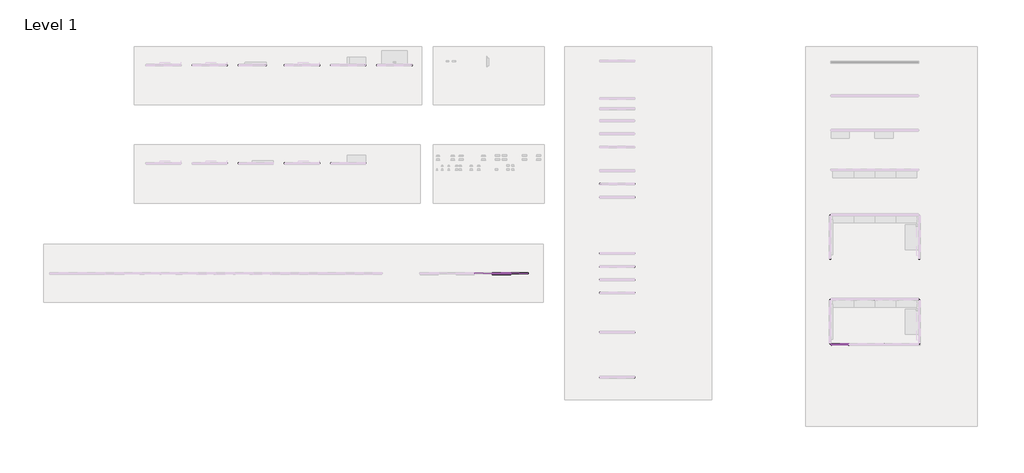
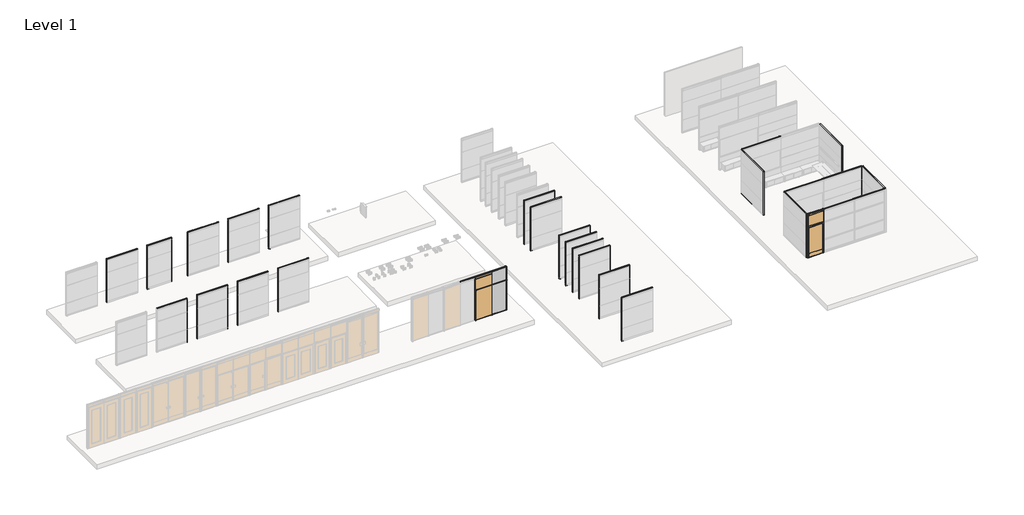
# One storey, part 3 of 13: 110 members, 13 doors, 1 plate.
"""IFC4 building model written with IfcOpenShell, lengths in millimetres."""

from ifc_helpers import new_model, si_unit, origin, place, context, project, spatial, transform, mapped, element, save
from components import fascia_door_teknion_ceiling_fpc_80850e86, fascia_door_teknion_ceiling_fpc_62af43c9, fascia_door_teknion_ceiling_fpc_4a164c3f, fascia_door_teknion_ceiling_fpc_6b3cde2a, fascia_door_teknion_glass_cfa58dbe, fascia_door_teknion_solid_fps_55af6ed7, frame_door_teknion_horizontal_rail_915d0f1b, frame_door_teknion_segmented_height_barn_single_50550370, frame_door_teknion_single_glass_bf3171e9, panel_door_teknion_glass_glas_door_panel_a473ddc0, panel_door_teknion_glass_barn_glass_door_panel_91c8f159, rectangular_mullion_eacba65d, rectangular_mullion_8e80d384, rectangular_mullion_beb627a1, rectangular_mullion_3d77bba8, rectangular_mullion_3afcdd40, rectangular_mullion_6b0b23d2, rectangular_mullion_1fbba104, rectangular_mullion_499ce15c, rectangular_mullion_f0f61f1f, rectangular_mullion_816eeb7a, rectangular_mullion_0f186f63, rectangular_mullion_frame_teknion_landscape_vertical_post_05f5e206, rectangular_mullion_frame_teknion_landscape_vertical_post_5ea4eea9, rectangular_mullion_frame_teknion_landscape_vertical_post_1fa3a907, system_panel_glazed_c02fb8ab

model = new_model("IFC4")

# Units and contexts
model_context = context("Model", 3, world=origin())
ifc_project = project(units=[si_unit("LENGTHUNIT", "METRE", prefix="MILLI")], contexts=[model_context])

# Site, building, storey
site = spatial("IfcSite", under=ifc_project)
building = spatial("IfcBuilding", under=site)
storey = spatial("IfcBuildingStorey", under=building, Name="Level 1", Elevation=0.0)

# Doors
placement = place(None, origin())
fascia_door_teknion_ceiling_fpc_shape = fascia_door_teknion_ceiling_fpc_80850e86(model_context)
element("IfcDoor", 1, ObjectType="Fascia-Door-Teknion-Ceiling : FPC", at=placement, inside=storey, context=model_context, shape_type="MappedRepresentation", body=[
    mapped(fascia_door_teknion_ceiling_fpc_shape, transform((781.0732348, 10022.5313649, 2900.045), x_axis=(1.0, 0.0, 0.0), y_axis=(0.0, 1.0, 0.0), z_axis=(0.0, 0.0, 1.0))),
])
fascia_door_teknion_ceiling_fpc_2_shape = fascia_door_teknion_ceiling_fpc_62af43c9(model_context)
element("IfcDoor", 2, ObjectType="Fascia-Door-Teknion-Ceiling : FPC", at=placement, inside=storey, context=model_context, shape_type="MappedRepresentation", body=[
    mapped(fascia_door_teknion_ceiling_fpc_2_shape, transform((781.0732348, 10122.6073649, 2900.045), x_axis=(1.0, 0.0, 0.0), y_axis=(0.0, 1.0, 0.0), z_axis=(0.0, 0.0, 1.0))),
])
fascia_door_teknion_ceiling_fpc_3_shape = fascia_door_teknion_ceiling_fpc_4a164c3f(model_context)
element("IfcDoor", 3, ObjectType="Fascia-Door-Teknion-Ceiling : FPC", at=placement, inside=storey, context=model_context, shape_type="MappedRepresentation", body=[
    mapped(fascia_door_teknion_ceiling_fpc_3_shape, transform((20337.8289087, 6027.4794732, 2950.845), x_axis=(-1.0, 0.0, 0.0), y_axis=(0.0, -1.0, 0.0), z_axis=(0.0, 0.0, 1.0))),
])
fascia_door_teknion_ceiling_fpc_4_shape = fascia_door_teknion_ceiling_fpc_6b3cde2a(model_context)
element("IfcDoor", 4, ObjectType="Fascia-Door-Teknion-Ceiling : FPC", at=placement, inside=storey, context=model_context, shape_type="MappedRepresentation", body=[
    mapped(fascia_door_teknion_ceiling_fpc_4_shape, transform((20337.8289087, 5925.8794732, 2950.845), x_axis=(-1.0, 0.0, 0.0), y_axis=(0.0, -1.0, 0.0), z_axis=(0.0, 0.0, 1.0))),
])
fascia_door_teknion_glass_shape = fascia_door_teknion_glass_cfa58dbe(model_context)
element("IfcDoor", 5, ObjectType="Fascia-Door-Teknion-Glass : FPGC", at=placement, inside=storey, context=model_context, shape_type="MappedRepresentation", body=[
    mapped(fascia_door_teknion_glass_shape, transform((20332.4187087, 5976.6794732, 2139.95), x_axis=(-1.0, 0.0, 0.0), y_axis=(0.0, -1.0, 0.0), z_axis=(0.0, 0.0, 1.0))),
])
fascia_door_teknion_solid_fps_shape = fascia_door_teknion_solid_fps_55af6ed7(model_context)
element("IfcDoor", 6, ObjectType="Fascia-Door-Teknion-Solid : FPS", at=placement, inside=storey, context=model_context, shape_type="MappedRepresentation", body=[
    mapped(fascia_door_teknion_solid_fps_shape, transform((781.0732348, 10022.5313649, 2139.95), x_axis=(-1.0000000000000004, 0.0, 0.0), y_axis=(0.0, -1.0000000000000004, 0.0), z_axis=(0.0, 0.0, 1.0))),
])
element("IfcDoor", 7, ObjectType="Fascia-Door-Teknion-Solid : FPS", at=placement, inside=storey, context=model_context, shape_type="MappedRepresentation", body=[
    mapped(fascia_door_teknion_solid_fps_shape, transform((781.0732348, 10122.6073649, 2139.95), x_axis=(1.0, 0.0, 0.0), y_axis=(0.0, 1.0, 0.0), z_axis=(0.0, 0.0, 1.0))),
])
frame_door_teknion_horizontal_rail_shape = frame_door_teknion_horizontal_rail_915d0f1b(model_context)
element("IfcDoor", 8, ObjectType="Frame-Door-Teknion-Horizontal_Rail : FPKK", at=placement, inside=storey, context=model_context, shape_type="MappedRepresentation", body=[
    mapped(frame_door_teknion_horizontal_rail_shape, transform((20337.8289087, 5976.6794732, 2139.95), x_axis=(-1.0, 0.0, 0.0), y_axis=(0.0, -1.0, 0.0), z_axis=(0.0, 0.0, 1.0))),
])
element("IfcDoor", 9, ObjectType="Frame-Door-Teknion-Horizontal_Rail : FPKK", at=placement, inside=storey, context=model_context, shape_type="MappedRepresentation", body=[
    mapped(frame_door_teknion_horizontal_rail_shape, transform((20337.8289087, 5976.6794732, 2947.67), x_axis=(-1.0, 0.0, 0.0), y_axis=(0.0, -1.0, 0.0), z_axis=(0.0, 0.0, 1.0))),
])
frame_door_teknion_segmented_height_barn_single_shape = frame_door_teknion_segmented_height_barn_single_50550370(model_context)
element("IfcDoor", 10, ObjectType="Frame-Door-Teknion-Segmented_Height_Barn-Single : FPBGFJ", at=placement, inside=storey, context=model_context, shape_type="MappedRepresentation", body=[
    mapped(frame_door_teknion_segmented_height_barn_single_shape, transform((781.0732348, 10072.5693649, 3.175), x_axis=(1.0, 0.0, 0.0), y_axis=(0.0, 1.0, 0.0), z_axis=(0.0, 0.0, 1.0))),
])
frame_door_teknion_single_glass_shape = frame_door_teknion_single_glass_bf3171e9(model_context)
element("IfcDoor", 11, ObjectType="Frame-Door-Teknion-Single-Glass : FPFJS", at=placement, inside=storey, context=model_context, shape_type="MappedRepresentation", body=[
    mapped(frame_door_teknion_single_glass_shape, transform((20337.8289087, 5976.6794732, 3.175), x_axis=(-1.0, 0.0, 0.0), y_axis=(0.0, -1.0, 0.0), z_axis=(0.0, 0.0, 1.0))),
])
panel_door_teknion_glass_glas_door_panel_shape = panel_door_teknion_glass_glas_door_panel_a473ddc0(model_context)
element("IfcDoor", 12, ObjectType="Panel-Door-Teknion-Glass : Glas Door Panel", at=placement, inside=storey, context=model_context, shape_type="MappedRepresentation", body=[
    mapped(panel_door_teknion_glass_glas_door_panel_shape, transform((20337.3336087, 5969.5489322, 3.175), x_axis=(1.0, 0.0, 0.0), y_axis=(0.0, 1.0, 0.0), z_axis=(0.0, 0.0, 1.0))),
])
panel_door_teknion_glass_barn_glass_door_panel_shape = panel_door_teknion_glass_barn_glass_door_panel_91c8f159(model_context)
element("IfcDoor", 13, ObjectType="Panel-Door-Teknion-Glass-Barn : Glass Door Panel", at=placement, inside=storey, context=model_context, shape_type="MappedRepresentation", body=[
    mapped(panel_door_teknion_glass_barn_glass_door_panel_shape, transform((784.0284831, 10007.6610549, 3.175), x_axis=(-1.0, 0.0, 0.0), y_axis=(0.0, -1.0, 0.0), z_axis=(0.0, 0.0, 1.0))),
])

# Members
rectangular_mullion_shape = rectangular_mullion_eacba65d(model_context)
element("IfcMember", 14, ObjectType="Rectangular Mullion : Frame-Teknion-Altos-Ceiling_Channel", at=placement, inside=storey, context=model_context, shape_type="MappedRepresentation", body=[
    mapped(rectangular_mullion_shape, transform((19825.4136744, 5976.6783277, 3048.0), x_axis=(0.0, 0.0, 1.0), y_axis=(0.0, 1.0, 0.0), z_axis=(-1.0, 0.0, 0.0))),
])
rectangular_mullion_2_shape = rectangular_mullion_8e80d384(model_context)
element("IfcMember", 15, ObjectType="Rectangular Mullion : Frame-Teknion-Altos-Base_Channel", at=placement, inside=storey, context=model_context, shape_type="MappedRepresentation", body=[
    mapped(rectangular_mullion_2_shape, transform((20850.2441431, 5976.6783277, 0.0), x_axis=(0.0, 0.0, -1.0), y_axis=(0.0, 1.0, 0.0), z_axis=(1.0, 0.0, 0.0))),
])
rectangular_mullion_3_shape = rectangular_mullion_beb627a1(model_context)
element("IfcMember", 16, ObjectType="Rectangular Mullion : Frame-Teknion-Altos-Base_Channel", at=placement, inside=storey, context=model_context, shape_type="MappedRepresentation", body=[
    mapped(rectangular_mullion_3_shape, transform((24849.4542994, 5976.6783277, 0.0), x_axis=(0.0, 0.0, -1.0), y_axis=(0.0, 1.0, 0.0), z_axis=(1.0, 0.0, 0.0))),
])
element("IfcMember", 17, ObjectType="Rectangular Mullion : Frame-Teknion-Altos-Ceiling_Channel", at=placement, inside=storey, context=model_context, shape_type="MappedRepresentation", body=[
    mapped(rectangular_mullion_3_shape, transform((22884.8238306, 5976.6783277, 3048.0), x_axis=(0.0, 0.0, 1.0), y_axis=(0.0, 1.0, 0.0), z_axis=(-1.0, 0.0, 0.0))),
])
rectangular_mullion_4_shape = rectangular_mullion_3d77bba8(model_context)
element("IfcMember", 18, ObjectType="Rectangular Mullion : Frame-Teknion-Altos-Ceiling_Channel", at=placement, inside=storey, context=model_context, shape_type="MappedRepresentation", body=[
    mapped(rectangular_mullion_4_shape, transform((20878.2238306, 5976.6783277, 3048.0), x_axis=(0.0, 0.0, 1.0), y_axis=(0.0, 1.0, 0.0), z_axis=(-1.0, 0.0, 0.0))),
])
element("IfcMember", 19, ObjectType="Rectangular Mullion : Frame-Teknion-Altos-Base_Channel", at=placement, inside=storey, context=model_context, shape_type="MappedRepresentation", body=[
    mapped(rectangular_mullion_4_shape, transform((22856.8441431, 5976.6783277, 0.0), x_axis=(0.0, 0.0, -1.0), y_axis=(0.0, 1.0, 0.0), z_axis=(1.0, 0.0, 0.0))),
])
rectangular_mullion_5_shape = rectangular_mullion_3afcdd40(model_context)
element("IfcMember", 20, ObjectType="Rectangular Mullion : Frame-Teknion-Altos-Base_Channel", at=placement, inside=storey, context=model_context, shape_type="MappedRepresentation", body=[
    mapped(rectangular_mullion_5_shape, transform((261.6630786, 10072.5705104, 0.0), x_axis=(0.0, 0.0, -1.0), y_axis=(0.0, -1.0, 0.0), z_axis=(-1.0, 0.0, 0.0))),
])
element("IfcMember", 21, ObjectType="Rectangular Mullion : Frame-Teknion-Altos-Ceiling_Channel", at=placement, inside=storey, context=model_context, shape_type="MappedRepresentation", body=[
    mapped(rectangular_mullion_5_shape, transform((1300.4833911, 10072.5705104, 3048.0), x_axis=(0.0, 0.0, 1.0), y_axis=(0.0, -1.0, 0.0), z_axis=(1.0, 0.0, 0.0))),
])
rectangular_mullion_6_shape = rectangular_mullion_6b0b23d2(model_context)
element("IfcMember", 22, ObjectType="Rectangular Mullion : Frame-Teknion-Altos-Ceiling_Channel", at=placement, inside=storey, context=model_context, shape_type="MappedRepresentation", body=[
    mapped(rectangular_mullion_6_shape, transform((233.6833911, 10072.5705104, 3048.0), x_axis=(0.0, 0.0, 1.0), y_axis=(0.0, -1.0, 0.0), z_axis=(1.0, 0.0, 0.0))),
])
rectangular_mullion_7_shape = rectangular_mullion_1fbba104(model_context)
element("IfcMember", 23, ObjectType="Rectangular Mullion : Frame-Teknion-Altos-Ceiling_Channel", at=placement, inside=storey, context=model_context, shape_type="MappedRepresentation", body=[
    mapped(rectangular_mullion_7_shape, transform((2302.4935473, 10072.5705104, 3048.0), x_axis=(0.0, 0.0, 1.0), y_axis=(0.0, -1.0, 0.0), z_axis=(1.0, 0.0, 0.0))),
])
element("IfcMember", 24, ObjectType="Rectangular Mullion : Frame-Teknion-Altos-Base_Channel", at=placement, inside=storey, context=model_context, shape_type="MappedRepresentation", body=[
    mapped(rectangular_mullion_7_shape, transform((1328.4630786, 10072.5705104, 0.0), x_axis=(0.0, 0.0, -1.0), y_axis=(0.0, -1.0, 0.0), z_axis=(-1.0, 0.0, 0.0))),
])
rectangular_mullion_8_shape = rectangular_mullion_499ce15c(model_context)
element("IfcMember", 25, ObjectType="Rectangular Mullion : Frame-Teknion-Altos-Ceiling_Channel", at=placement, inside=storey, context=model_context, shape_type="MappedRepresentation", body=[
    mapped(rectangular_mullion_8_shape, transform((-12810.545849, 22107.2569796, 3048.0), x_axis=(0.0, 0.0, 1.0), y_axis=(0.0, -1.0, 0.0), z_axis=(1.0, 0.0, 0.0))),
])
element("IfcMember", 26, ObjectType="Rectangular Mullion : Frame-Teknion-Altos-Base_Channel", at=placement, inside=storey, context=model_context, shape_type="MappedRepresentation", body=[
    mapped(rectangular_mullion_8_shape, transform((-14380.186474, 22107.2569796, 0.0), x_axis=(0.0, 0.0, -1.0), y_axis=(0.0, -1.0, 0.0), z_axis=(-1.0, 0.0, 0.0))),
])
rectangular_mullion_9_shape = rectangular_mullion_f0f61f1f(model_context)
element("IfcMember", 27, ObjectType="Rectangular Mullion : Frame-Teknion-Altos-Ceiling_Channel", at=placement, inside=storey, context=model_context, shape_type="MappedRepresentation", body=[
    mapped(rectangular_mullion_9_shape, transform((-15071.145849, 22107.2569796, 3048.0), x_axis=(0.0, 0.0, 1.0), y_axis=(0.0, -1.0, 0.0), z_axis=(1.0, 0.0, 0.0))),
])
element("IfcMember", 28, ObjectType="Rectangular Mullion : Frame-Teknion-Altos-Ceiling_Channel", at=placement, inside=storey, context=model_context, shape_type="MappedRepresentation", body=[
    mapped(rectangular_mullion_9_shape, transform((-9737.145849, 22107.2569796, 3048.0), x_axis=(0.0, 0.0, 1.0), y_axis=(0.0, -1.0, 0.0), z_axis=(1.0, 0.0, 0.0))),
])
element("IfcMember", 29, ObjectType="Rectangular Mullion : Frame-Teknion-Altos-Ceiling_Channel", at=placement, inside=storey, context=model_context, shape_type="MappedRepresentation", body=[
    mapped(rectangular_mullion_9_shape, transform((-7070.145849, 22107.2569796, 3048.0), x_axis=(0.0, 0.0, 1.0), y_axis=(0.0, -1.0, 0.0), z_axis=(1.0, 0.0, 0.0))),
])
element("IfcMember", 30, ObjectType="Rectangular Mullion : Frame-Teknion-Altos-Ceiling_Channel", at=placement, inside=storey, context=model_context, shape_type="MappedRepresentation", body=[
    mapped(rectangular_mullion_9_shape, transform((-4403.145849, 22107.2569796, 3048.0), x_axis=(0.0, 0.0, 1.0), y_axis=(0.0, -1.0, 0.0), z_axis=(1.0, 0.0, 0.0))),
])
element("IfcMember", 31, ObjectType="Rectangular Mullion : Frame-Teknion-Altos-Ceiling_Channel", at=placement, inside=storey, context=model_context, shape_type="MappedRepresentation", body=[
    mapped(rectangular_mullion_9_shape, transform((-15071.145849, 16425.5309796, 3048.0), x_axis=(0.0, 0.0, 1.0), y_axis=(0.0, -1.0, 0.0), z_axis=(1.0, 0.0, 0.0))),
])
element("IfcMember", 32, ObjectType="Rectangular Mullion : Frame-Teknion-Altos-Ceiling_Channel", at=placement, inside=storey, context=model_context, shape_type="MappedRepresentation", body=[
    mapped(rectangular_mullion_9_shape, transform((-12404.145849, 16425.5309796, 3048.0), x_axis=(0.0, 0.0, 1.0), y_axis=(0.0, -1.0, 0.0), z_axis=(1.0, 0.0, 0.0))),
])
element("IfcMember", 33, ObjectType="Rectangular Mullion : Frame-Teknion-Altos-Ceiling_Channel", at=placement, inside=storey, context=model_context, shape_type="MappedRepresentation", body=[
    mapped(rectangular_mullion_9_shape, transform((-9737.145849, 16425.5309796, 3048.0), x_axis=(0.0, 0.0, 1.0), y_axis=(0.0, -1.0, 0.0), z_axis=(1.0, 0.0, 0.0))),
])
element("IfcMember", 34, ObjectType="Rectangular Mullion : Frame-Teknion-Altos-Ceiling_Channel", at=placement, inside=storey, context=model_context, shape_type="MappedRepresentation", body=[
    mapped(rectangular_mullion_9_shape, transform((-7070.145849, 16425.5309796, 3048.0), x_axis=(0.0, 0.0, 1.0), y_axis=(0.0, -1.0, 0.0), z_axis=(1.0, 0.0, 0.0))),
])
element("IfcMember", 35, ObjectType="Rectangular Mullion : Frame-Teknion-Altos-Ceiling_Channel", at=placement, inside=storey, context=model_context, shape_type="MappedRepresentation", body=[
    mapped(rectangular_mullion_9_shape, transform((8457.8650988, 15239.4686297, 3048.0), x_axis=(0.0, 0.0, 1.0), y_axis=(0.0, -1.0, 0.0), z_axis=(1.0, 0.0, 0.0))),
])
element("IfcMember", 36, ObjectType="Rectangular Mullion : Frame-Teknion-Altos-Ceiling_Channel", at=placement, inside=storey, context=model_context, shape_type="MappedRepresentation", body=[
    mapped(rectangular_mullion_9_shape, transform((8457.8650988, 14477.4686297, 3048.0), x_axis=(0.0, 0.0, 1.0), y_axis=(0.0, -1.0, 0.0), z_axis=(1.0, 0.0, 0.0))),
])
element("IfcMember", 37, ObjectType="Rectangular Mullion : Frame-Teknion-Altos-Ceiling_Channel", at=placement, inside=storey, context=model_context, shape_type="MappedRepresentation", body=[
    mapped(rectangular_mullion_9_shape, transform((8457.8650988, 11232.7622262, 3048.0), x_axis=(0.0, 0.0, 1.0), y_axis=(0.0, -1.0, 0.0), z_axis=(1.0, 0.0, 0.0))),
])
element("IfcMember", 38, ObjectType="Rectangular Mullion : Frame-Teknion-Altos-Ceiling_Channel", at=placement, inside=storey, context=model_context, shape_type="MappedRepresentation", body=[
    mapped(rectangular_mullion_9_shape, transform((8457.8650988, 10470.7622262, 3048.0), x_axis=(0.0, 0.0, 1.0), y_axis=(0.0, -1.0, 0.0), z_axis=(1.0, 0.0, 0.0))),
])
element("IfcMember", 39, ObjectType="Rectangular Mullion : Frame-Teknion-Altos-Ceiling_Channel", at=placement, inside=storey, context=model_context, shape_type="MappedRepresentation", body=[
    mapped(rectangular_mullion_9_shape, transform((8457.8650988, 9708.7622262, 3048.0), x_axis=(0.0, 0.0, 1.0), y_axis=(0.0, -1.0, 0.0), z_axis=(1.0, 0.0, 0.0))),
])
element("IfcMember", 40, ObjectType="Rectangular Mullion : Frame-Teknion-Altos-Ceiling_Channel", at=placement, inside=storey, context=model_context, shape_type="MappedRepresentation", body=[
    mapped(rectangular_mullion_9_shape, transform((8457.8650988, 8946.7622262, 3048.0), x_axis=(0.0, 0.0, 1.0), y_axis=(0.0, -1.0, 0.0), z_axis=(1.0, 0.0, 0.0))),
])
element("IfcMember", 41, ObjectType="Rectangular Mullion : Frame-Teknion-Altos-Ceiling_Channel", at=placement, inside=storey, context=model_context, shape_type="MappedRepresentation", body=[
    mapped(rectangular_mullion_9_shape, transform((8457.8650988, 6680.4614446, 3048.0), x_axis=(0.0, 0.0, 1.0), y_axis=(0.0, -1.0, 0.0), z_axis=(1.0, 0.0, 0.0))),
])
element("IfcMember", 42, ObjectType="Rectangular Mullion : Frame-Teknion-Altos-Ceiling_Channel", at=placement, inside=storey, context=model_context, shape_type="MappedRepresentation", body=[
    mapped(rectangular_mullion_9_shape, transform((8457.8650988, 4087.2649609, 3048.0), x_axis=(0.0, 0.0, 1.0), y_axis=(0.0, -1.0, 0.0), z_axis=(1.0, 0.0, 0.0))),
])
element("IfcMember", 43, ObjectType="Rectangular Mullion : Frame-Teknion-Altos-Base_Channel", at=placement, inside=storey, context=model_context, shape_type="MappedRepresentation", body=[
    mapped(rectangular_mullion_9_shape, transform((-11713.186474, 22107.2569796, 0.0), x_axis=(0.0, 0.0, -1.0), y_axis=(0.0, -1.0, 0.0), z_axis=(-1.0, 0.0, 0.0))),
])
element("IfcMember", 44, ObjectType="Rectangular Mullion : Frame-Teknion-Altos-Base_Channel", at=placement, inside=storey, context=model_context, shape_type="MappedRepresentation", body=[
    mapped(rectangular_mullion_9_shape, transform((-9046.186474, 22107.2569796, 0.0), x_axis=(0.0, 0.0, -1.0), y_axis=(0.0, -1.0, 0.0), z_axis=(-1.0, 0.0, 0.0))),
])
element("IfcMember", 45, ObjectType="Rectangular Mullion : Frame-Teknion-Altos-Base_Channel", at=placement, inside=storey, context=model_context, shape_type="MappedRepresentation", body=[
    mapped(rectangular_mullion_9_shape, transform((-6379.186474, 22107.2569796, 0.0), x_axis=(0.0, 0.0, -1.0), y_axis=(0.0, -1.0, 0.0), z_axis=(-1.0, 0.0, 0.0))),
])
element("IfcMember", 46, ObjectType="Rectangular Mullion : Frame-Teknion-Altos-Base_Channel", at=placement, inside=storey, context=model_context, shape_type="MappedRepresentation", body=[
    mapped(rectangular_mullion_9_shape, transform((-14380.186474, 16425.5309796, 0.0), x_axis=(0.0, 0.0, -1.0), y_axis=(0.0, -1.0, 0.0), z_axis=(-1.0, 0.0, 0.0))),
])
element("IfcMember", 47, ObjectType="Rectangular Mullion : Frame-Teknion-Altos-Base_Channel", at=placement, inside=storey, context=model_context, shape_type="MappedRepresentation", body=[
    mapped(rectangular_mullion_9_shape, transform((-11713.186474, 16425.5309796, 0.0), x_axis=(0.0, 0.0, -1.0), y_axis=(0.0, -1.0, 0.0), z_axis=(-1.0, 0.0, 0.0))),
])
element("IfcMember", 48, ObjectType="Rectangular Mullion : Frame-Teknion-Altos-Base_Channel", at=placement, inside=storey, context=model_context, shape_type="MappedRepresentation", body=[
    mapped(rectangular_mullion_9_shape, transform((-9046.186474, 16425.5309796, 0.0), x_axis=(0.0, 0.0, -1.0), y_axis=(0.0, -1.0, 0.0), z_axis=(-1.0, 0.0, 0.0))),
])
element("IfcMember", 49, ObjectType="Rectangular Mullion : Frame-Teknion-Altos-Base_Channel", at=placement, inside=storey, context=model_context, shape_type="MappedRepresentation", body=[
    mapped(rectangular_mullion_9_shape, transform((6481.8244738, 15239.4686297, 0.0), x_axis=(0.0, 0.0, -1.0), y_axis=(0.0, -1.0, 0.0), z_axis=(-1.0, 0.0, 0.0))),
])
element("IfcMember", 50, ObjectType="Rectangular Mullion : Frame-Teknion-Altos-Base_Channel", at=placement, inside=storey, context=model_context, shape_type="MappedRepresentation", body=[
    mapped(rectangular_mullion_9_shape, transform((6481.8244738, 14477.4686297, 0.0), x_axis=(0.0, 0.0, -1.0), y_axis=(0.0, -1.0, 0.0), z_axis=(-1.0, 0.0, 0.0))),
])
element("IfcMember", 51, ObjectType="Rectangular Mullion : Frame-Teknion-Altos-Base_Channel", at=placement, inside=storey, context=model_context, shape_type="MappedRepresentation", body=[
    mapped(rectangular_mullion_9_shape, transform((6481.8244738, 11232.7622262, 0.0), x_axis=(0.0, 0.0, -1.0), y_axis=(0.0, -1.0, 0.0), z_axis=(-1.0, 0.0, 0.0))),
])
element("IfcMember", 52, ObjectType="Rectangular Mullion : Frame-Teknion-Altos-Base_Channel", at=placement, inside=storey, context=model_context, shape_type="MappedRepresentation", body=[
    mapped(rectangular_mullion_9_shape, transform((6481.8244738, 10470.7622262, 0.0), x_axis=(0.0, 0.0, -1.0), y_axis=(0.0, -1.0, 0.0), z_axis=(-1.0, 0.0, 0.0))),
])
element("IfcMember", 53, ObjectType="Rectangular Mullion : Frame-Teknion-Altos-Base_Channel", at=placement, inside=storey, context=model_context, shape_type="MappedRepresentation", body=[
    mapped(rectangular_mullion_9_shape, transform((6481.8244738, 9708.7622262, 0.0), x_axis=(0.0, 0.0, -1.0), y_axis=(0.0, -1.0, 0.0), z_axis=(-1.0, 0.0, 0.0))),
])
element("IfcMember", 54, ObjectType="Rectangular Mullion : Frame-Teknion-Altos-Base_Channel", at=placement, inside=storey, context=model_context, shape_type="MappedRepresentation", body=[
    mapped(rectangular_mullion_9_shape, transform((6481.8244738, 8946.7622262, 0.0), x_axis=(0.0, 0.0, -1.0), y_axis=(0.0, -1.0, 0.0), z_axis=(-1.0, 0.0, 0.0))),
])
element("IfcMember", 55, ObjectType="Rectangular Mullion : Frame-Teknion-Altos-Base_Channel", at=placement, inside=storey, context=model_context, shape_type="MappedRepresentation", body=[
    mapped(rectangular_mullion_9_shape, transform((6481.8244738, 6680.4614446, 0.0), x_axis=(0.0, 0.0, -1.0), y_axis=(0.0, -1.0, 0.0), z_axis=(-1.0, 0.0, 0.0))),
])
element("IfcMember", 56, ObjectType="Rectangular Mullion : Frame-Teknion-Altos-Base_Channel", at=placement, inside=storey, context=model_context, shape_type="MappedRepresentation", body=[
    mapped(rectangular_mullion_9_shape, transform((6481.8244738, 4087.2649609, 0.0), x_axis=(0.0, 0.0, -1.0), y_axis=(0.0, -1.0, 0.0), z_axis=(-1.0, 0.0, 0.0))),
])
rectangular_mullion_10_shape = rectangular_mullion_816eeb7a(model_context)
element("IfcMember", 57, ObjectType="Rectangular Mullion : Frame-Teknion-Altos-Ceiling_Channel", at=placement, inside=storey, context=model_context, shape_type="MappedRepresentation", body=[
    mapped(rectangular_mullion_10_shape, transform((22323.4441431, 13468.4986412, 3048.0), x_axis=(0.0, 0.0, 1.0), y_axis=(0.0, -1.0, 0.0), z_axis=(1.0, 0.0, 0.0))),
])
element("IfcMember", 58, ObjectType="Rectangular Mullion : Frame-Teknion-Altos-Ceiling_Channel", at=placement, inside=storey, context=model_context, shape_type="MappedRepresentation", body=[
    mapped(rectangular_mullion_10_shape, transform((24849.4542994, 8591.6986412, 3048.0), x_axis=(0.0, 0.0, 1.0), y_axis=(0.0, -1.0, 0.0), z_axis=(1.0, 0.0, 0.0))),
])
element("IfcMember", 59, ObjectType="Rectangular Mullion : Frame-Teknion-Altos-Ceiling_Channel", at=placement, inside=storey, context=model_context, shape_type="MappedRepresentation", body=[
    mapped(rectangular_mullion_10_shape, transform((22323.4441431, 8591.6986412, 3048.0), x_axis=(0.0, 0.0, 1.0), y_axis=(0.0, -1.0, 0.0), z_axis=(1.0, 0.0, 0.0))),
])
element("IfcMember", 60, ObjectType="Rectangular Mullion : Frame-Teknion-Altos-Base_Channel", at=placement, inside=storey, context=model_context, shape_type="MappedRepresentation", body=[
    mapped(rectangular_mullion_10_shape, transform((19825.4136744, 13468.4986412, 0.0), x_axis=(0.0, 0.0, -1.0), y_axis=(0.0, -1.0, 0.0), z_axis=(-1.0, 0.0, 0.0))),
])
element("IfcMember", 61, ObjectType="Rectangular Mullion : Frame-Teknion-Altos-Base_Channel", at=placement, inside=storey, context=model_context, shape_type="MappedRepresentation", body=[
    mapped(rectangular_mullion_10_shape, transform((22351.4238306, 13468.4986412, 0.0), x_axis=(0.0, 0.0, -1.0), y_axis=(0.0, -1.0, 0.0), z_axis=(-1.0, 0.0, 0.0))),
])
element("IfcMember", 62, ObjectType="Rectangular Mullion : Frame-Teknion-Altos-Base_Channel", at=placement, inside=storey, context=model_context, shape_type="MappedRepresentation", body=[
    mapped(rectangular_mullion_10_shape, transform((19825.4136744, 8591.6986412, 0.0), x_axis=(0.0, 0.0, -1.0), y_axis=(0.0, -1.0, 0.0), z_axis=(-1.0, 0.0, 0.0))),
])
element("IfcMember", 63, ObjectType="Rectangular Mullion : Frame-Teknion-Altos-Base_Channel", at=placement, inside=storey, context=model_context, shape_type="MappedRepresentation", body=[
    mapped(rectangular_mullion_10_shape, transform((22351.4238306, 8591.6986412, 0.0), x_axis=(0.0, 0.0, -1.0), y_axis=(0.0, -1.0, 0.0), z_axis=(-1.0, 0.0, 0.0))),
])
rectangular_mullion_11_shape = rectangular_mullion_0f186f63(model_context)
element("IfcMember", 64, ObjectType="Rectangular Mullion : Frame-Teknion-Altos-Ceiling_Channel", at=placement, inside=storey, context=model_context, shape_type="MappedRepresentation", body=[
    mapped(rectangular_mullion_11_shape, transform((24914.942591, 10918.9783282, 3048.0), x_axis=(0.0, 0.0, 1.0), y_axis=(-1.0, 0.0, 0.0), z_axis=(0.0, -1.0, 0.0))),
])
element("IfcMember", 65, ObjectType="Rectangular Mullion : Frame-Teknion-Altos-Ceiling_Channel", at=placement, inside=storey, context=model_context, shape_type="MappedRepresentation", body=[
    mapped(rectangular_mullion_11_shape, transform((19759.9253827, 8526.2189532, 3048.0), x_axis=(0.0, 0.0, 1.0), y_axis=(1.0, 0.0, 0.0), z_axis=(0.0, 1.0, 0.0))),
])
element("IfcMember", 66, ObjectType="Rectangular Mullion : Frame-Teknion-Altos-Ceiling_Channel", at=placement, inside=storey, context=model_context, shape_type="MappedRepresentation", body=[
    mapped(rectangular_mullion_11_shape, transform((24914.942591, 6042.1783282, 3048.0), x_axis=(0.0, 0.0, 1.0), y_axis=(-1.0, 0.0, 0.0), z_axis=(0.0, -1.0, 0.0))),
])
element("IfcMember", 67, ObjectType="Rectangular Mullion : Frame-Teknion-Altos-Ceiling_Channel", at=placement, inside=storey, context=model_context, shape_type="MappedRepresentation", body=[
    mapped(rectangular_mullion_11_shape, transform((19759.9253827, 13403.0189532, 3048.0), x_axis=(0.0, 0.0, 1.0), y_axis=(1.0, 0.0, 0.0), z_axis=(0.0, 1.0, 0.0))),
])
element("IfcMember", 68, ObjectType="Rectangular Mullion : Frame-Teknion-Altos-Base_Channel", at=placement, inside=storey, context=model_context, shape_type="MappedRepresentation", body=[
    mapped(rectangular_mullion_11_shape, transform((24914.942591, 13403.0189532, 0.0), x_axis=(0.0, 0.0, -1.0), y_axis=(-1.0, 0.0, 0.0), z_axis=(0.0, 1.0, 0.0))),
])
element("IfcMember", 69, ObjectType="Rectangular Mullion : Frame-Teknion-Altos-Base_Channel", at=placement, inside=storey, context=model_context, shape_type="MappedRepresentation", body=[
    mapped(rectangular_mullion_11_shape, transform((19759.9253827, 6042.1783282, 0.0), x_axis=(0.0, 0.0, -1.0), y_axis=(1.0, 0.0, 0.0), z_axis=(0.0, -1.0, 0.0))),
])
element("IfcMember", 70, ObjectType="Rectangular Mullion : Frame-Teknion-Altos-Base_Channel", at=placement, inside=storey, context=model_context, shape_type="MappedRepresentation", body=[
    mapped(rectangular_mullion_11_shape, transform((24914.942591, 8526.2189532, 0.0), x_axis=(0.0, 0.0, -1.0), y_axis=(-1.0, 0.0, 0.0), z_axis=(0.0, 1.0, 0.0))),
])
element("IfcMember", 71, ObjectType="Rectangular Mullion : Frame-Teknion-Altos-Base_Channel", at=placement, inside=storey, context=model_context, shape_type="MappedRepresentation", body=[
    mapped(rectangular_mullion_11_shape, transform((19759.9253827, 10918.9783282, 0.0), x_axis=(0.0, 0.0, -1.0), y_axis=(1.0, 0.0, 0.0), z_axis=(0.0, -1.0, 0.0))),
])
rectangular_mullion_frame_teknion_landscape_vertical_post_shape = rectangular_mullion_frame_teknion_landscape_vertical_post_05f5e206(model_context)
element("IfcMember", 72, ObjectType="Rectangular Mullion : Frame-Teknion-Landscape_Vertical_Post", at=placement, inside=storey, context=model_context, shape_type="MappedRepresentation", body=[
    mapped(rectangular_mullion_frame_teknion_landscape_vertical_post_shape, transform((22337.4339869, 13468.4986412, 0.0), x_axis=(1.0, 0.0, 0.0), y_axis=(0.0, -1.0, 0.0), z_axis=(0.0, 0.0, -1.0))),
])
element("IfcMember", 73, ObjectType="Rectangular Mullion : Frame-Teknion-Landscape_Vertical_Post", at=placement, inside=storey, context=model_context, shape_type="MappedRepresentation", body=[
    mapped(rectangular_mullion_frame_teknion_landscape_vertical_post_shape, transform((22337.4339869, 8591.6986412, 0.0), x_axis=(1.0, 0.0, 0.0), y_axis=(0.0, -1.0, 0.0), z_axis=(0.0, 0.0, -1.0))),
])
element("IfcMember", 74, ObjectType="Rectangular Mullion : Frame-Teknion-Landscape_Vertical_Post", at=placement, inside=storey, context=model_context, shape_type="MappedRepresentation", body=[
    mapped(rectangular_mullion_frame_teknion_landscape_vertical_post_shape, transform((22870.8339869, 5976.6783277, 0.0), x_axis=(-1.0, 0.0, 0.0), y_axis=(0.0, 1.0, 0.0), z_axis=(0.0, 0.0, -1.0))),
])
element("IfcMember", 75, ObjectType="Rectangular Mullion : Frame-Teknion-Landscape_Vertical_Post", at=placement, inside=storey, context=model_context, shape_type="MappedRepresentation", body=[
    mapped(rectangular_mullion_frame_teknion_landscape_vertical_post_shape, transform((20864.2339869, 5976.6783277, 0.0), x_axis=(-1.0, 0.0, 0.0), y_axis=(0.0, 1.0, 0.0), z_axis=(0.0, 0.0, -1.0))),
])
element("IfcMember", 76, ObjectType="Rectangular Mullion : Frame-Teknion-Landscape_Vertical_Post", at=placement, inside=storey, context=model_context, shape_type="MappedRepresentation", body=[
    mapped(rectangular_mullion_frame_teknion_landscape_vertical_post_shape, transform((247.6732348, 10072.5705104, 0.0), x_axis=(1.0, 0.0, 0.0), y_axis=(0.0, -1.0, 0.0), z_axis=(0.0, 0.0, -1.0))),
])
element("IfcMember", 77, ObjectType="Rectangular Mullion : Frame-Teknion-Landscape_Vertical_Post", at=placement, inside=storey, context=model_context, shape_type="MappedRepresentation", body=[
    mapped(rectangular_mullion_frame_teknion_landscape_vertical_post_shape, transform((1314.4732348, 10072.5705104, 0.0), x_axis=(1.0, 0.0, 0.0), y_axis=(0.0, -1.0, 0.0), z_axis=(0.0, 0.0, -1.0))),
])
rectangular_mullion_frame_teknion_landscape_vertical_post_2_shape = rectangular_mullion_frame_teknion_landscape_vertical_post_5ea4eea9(model_context)
element("IfcMember", 78, ObjectType="Rectangular Mullion : Frame-Teknion-Landscape_Vertical_Post", at=placement, inside=storey, context=model_context, shape_type="MappedRepresentation", body=[
    mapped(rectangular_mullion_frame_teknion_landscape_vertical_post_2_shape, transform((-15043.1661615, 22107.2569796, 0.0), x_axis=(1.0, 0.0, 0.0), y_axis=(0.0, -1.0, 0.0), z_axis=(0.0, 0.0, -1.0))),
])
element("IfcMember", 79, ObjectType="Rectangular Mullion : Frame-Teknion-Landscape_Vertical_Post", at=placement, inside=storey, context=model_context, shape_type="MappedRepresentation", body=[
    mapped(rectangular_mullion_frame_teknion_landscape_vertical_post_2_shape, transform((-12782.5661615, 22107.2569796, 0.0), x_axis=(1.0, 0.0, 0.0), y_axis=(0.0, -1.0, 0.0), z_axis=(0.0, 0.0, -1.0))),
])
element("IfcMember", 80, ObjectType="Rectangular Mullion : Frame-Teknion-Landscape_Vertical_Post", at=placement, inside=storey, context=model_context, shape_type="MappedRepresentation", body=[
    mapped(rectangular_mullion_frame_teknion_landscape_vertical_post_2_shape, transform((-9709.1661615, 22107.2569796, 0.0), x_axis=(1.0, 0.0, 0.0), y_axis=(0.0, -1.0, 0.0), z_axis=(0.0, 0.0, -1.0))),
])
element("IfcMember", 81, ObjectType="Rectangular Mullion : Frame-Teknion-Landscape_Vertical_Post", at=placement, inside=storey, context=model_context, shape_type="MappedRepresentation", body=[
    mapped(rectangular_mullion_frame_teknion_landscape_vertical_post_2_shape, transform((-7042.1661615, 22107.2569796, 0.0), x_axis=(1.0, 0.0, 0.0), y_axis=(0.0, -1.0, 0.0), z_axis=(0.0, 0.0, -1.0))),
])
element("IfcMember", 82, ObjectType="Rectangular Mullion : Frame-Teknion-Landscape_Vertical_Post", at=placement, inside=storey, context=model_context, shape_type="MappedRepresentation", body=[
    mapped(rectangular_mullion_frame_teknion_landscape_vertical_post_2_shape, transform((-4375.1661615, 22107.2569796, 0.0), x_axis=(1.0, 0.0, 0.0), y_axis=(0.0, -1.0, 0.0), z_axis=(0.0, 0.0, -1.0))),
])
element("IfcMember", 83, ObjectType="Rectangular Mullion : Frame-Teknion-Landscape_Vertical_Post", at=placement, inside=storey, context=model_context, shape_type="MappedRepresentation", body=[
    mapped(rectangular_mullion_frame_teknion_landscape_vertical_post_2_shape, transform((-15043.1661615, 16425.5309796, 0.0), x_axis=(1.0, 0.0, 0.0), y_axis=(0.0, -1.0, 0.0), z_axis=(0.0, 0.0, -1.0))),
])
element("IfcMember", 84, ObjectType="Rectangular Mullion : Frame-Teknion-Landscape_Vertical_Post", at=placement, inside=storey, context=model_context, shape_type="MappedRepresentation", body=[
    mapped(rectangular_mullion_frame_teknion_landscape_vertical_post_2_shape, transform((-12376.1661615, 16425.5309796, 0.0), x_axis=(1.0, 0.0, 0.0), y_axis=(0.0, -1.0, 0.0), z_axis=(0.0, 0.0, -1.0))),
])
element("IfcMember", 85, ObjectType="Rectangular Mullion : Frame-Teknion-Landscape_Vertical_Post", at=placement, inside=storey, context=model_context, shape_type="MappedRepresentation", body=[
    mapped(rectangular_mullion_frame_teknion_landscape_vertical_post_2_shape, transform((-9709.1661615, 16425.5309796, 0.0), x_axis=(1.0, 0.0, 0.0), y_axis=(0.0, -1.0, 0.0), z_axis=(0.0, 0.0, -1.0))),
])
element("IfcMember", 86, ObjectType="Rectangular Mullion : Frame-Teknion-Landscape_Vertical_Post", at=placement, inside=storey, context=model_context, shape_type="MappedRepresentation", body=[
    mapped(rectangular_mullion_frame_teknion_landscape_vertical_post_2_shape, transform((-7042.1661615, 16425.5309796, 0.0), x_axis=(1.0, 0.0, 0.0), y_axis=(0.0, -1.0, 0.0), z_axis=(0.0, 0.0, -1.0))),
])
element("IfcMember", 87, ObjectType="Rectangular Mullion : Frame-Teknion-Landscape_Vertical_Post", at=placement, inside=storey, context=model_context, shape_type="MappedRepresentation", body=[
    mapped(rectangular_mullion_frame_teknion_landscape_vertical_post_2_shape, transform((24914.942591, 10890.9986407, 0.0), x_axis=(0.0, -1.0, 0.0), y_axis=(-1.0, 0.0, 0.0), z_axis=(0.0, 0.0, -1.0))),
])
element("IfcMember", 88, ObjectType="Rectangular Mullion : Frame-Teknion-Landscape_Vertical_Post", at=placement, inside=storey, context=model_context, shape_type="MappedRepresentation", body=[
    mapped(rectangular_mullion_frame_teknion_landscape_vertical_post_2_shape, transform((19759.9253827, 8554.1986407, 0.0), x_axis=(0.0, 1.0, 0.0), y_axis=(1.0, 0.0, 0.0), z_axis=(0.0, 0.0, -1.0))),
])
element("IfcMember", 89, ObjectType="Rectangular Mullion : Frame-Teknion-Landscape_Vertical_Post", at=placement, inside=storey, context=model_context, shape_type="MappedRepresentation", body=[
    mapped(rectangular_mullion_frame_teknion_landscape_vertical_post_2_shape, transform((24914.942591, 6014.1986407, 0.0), x_axis=(0.0, -1.0, 0.0), y_axis=(-1.0, 0.0, 0.0), z_axis=(0.0, 0.0, -1.0))),
])
element("IfcMember", 90, ObjectType="Rectangular Mullion : Frame-Teknion-Landscape_Vertical_Post", at=placement, inside=storey, context=model_context, shape_type="MappedRepresentation", body=[
    mapped(rectangular_mullion_frame_teknion_landscape_vertical_post_2_shape, transform((24877.4339869, 8591.6986412, 0.0), x_axis=(1.0, 0.0, 0.0), y_axis=(0.0, -1.0, 0.0), z_axis=(0.0, 0.0, -1.0))),
])
element("IfcMember", 91, ObjectType="Rectangular Mullion : Frame-Teknion-Landscape_Vertical_Post", at=placement, inside=storey, context=model_context, shape_type="MappedRepresentation", body=[
    mapped(rectangular_mullion_frame_teknion_landscape_vertical_post_2_shape, transform((19797.4339869, 5976.6783277, 0.0), x_axis=(-1.0, 0.0, 0.0), y_axis=(0.0, 1.0, 0.0), z_axis=(0.0, 0.0, -1.0))),
])
element("IfcMember", 92, ObjectType="Rectangular Mullion : Frame-Teknion-Landscape_Vertical_Post", at=placement, inside=storey, context=model_context, shape_type="MappedRepresentation", body=[
    mapped(rectangular_mullion_frame_teknion_landscape_vertical_post_2_shape, transform((19759.9253827, 13430.9986407, 0.0), x_axis=(0.0, 1.0, 0.0), y_axis=(1.0, 0.0, 0.0), z_axis=(0.0, 0.0, -1.0))),
])
element("IfcMember", 93, ObjectType="Rectangular Mullion : Frame-Teknion-Landscape_Vertical_Post", at=placement, inside=storey, context=model_context, shape_type="MappedRepresentation", body=[
    mapped(rectangular_mullion_frame_teknion_landscape_vertical_post_2_shape, transform((8485.8447863, 15239.4686297, 0.0), x_axis=(1.0, 0.0, 0.0), y_axis=(0.0, -1.0, 0.0), z_axis=(0.0, 0.0, -1.0))),
])
element("IfcMember", 94, ObjectType="Rectangular Mullion : Frame-Teknion-Landscape_Vertical_Post", at=placement, inside=storey, context=model_context, shape_type="MappedRepresentation", body=[
    mapped(rectangular_mullion_frame_teknion_landscape_vertical_post_2_shape, transform((8485.8447863, 14477.4686297, 0.0), x_axis=(1.0, 0.0, 0.0), y_axis=(0.0, -1.0, 0.0), z_axis=(0.0, 0.0, -1.0))),
])
element("IfcMember", 95, ObjectType="Rectangular Mullion : Frame-Teknion-Landscape_Vertical_Post", at=placement, inside=storey, context=model_context, shape_type="MappedRepresentation", body=[
    mapped(rectangular_mullion_frame_teknion_landscape_vertical_post_2_shape, transform((8485.8447863, 11232.7622262, 0.0), x_axis=(1.0, 0.0, 0.0), y_axis=(0.0, -1.0, 0.0), z_axis=(0.0, 0.0, -1.0))),
])
element("IfcMember", 96, ObjectType="Rectangular Mullion : Frame-Teknion-Landscape_Vertical_Post", at=placement, inside=storey, context=model_context, shape_type="MappedRepresentation", body=[
    mapped(rectangular_mullion_frame_teknion_landscape_vertical_post_2_shape, transform((8485.8447863, 10470.7622262, 0.0), x_axis=(1.0, 0.0, 0.0), y_axis=(0.0, -1.0, 0.0), z_axis=(0.0, 0.0, -1.0))),
])
element("IfcMember", 97, ObjectType="Rectangular Mullion : Frame-Teknion-Landscape_Vertical_Post", at=placement, inside=storey, context=model_context, shape_type="MappedRepresentation", body=[
    mapped(rectangular_mullion_frame_teknion_landscape_vertical_post_2_shape, transform((8485.8447863, 9708.7622262, 0.0), x_axis=(1.0, 0.0, 0.0), y_axis=(0.0, -1.0, 0.0), z_axis=(0.0, 0.0, -1.0))),
])
element("IfcMember", 98, ObjectType="Rectangular Mullion : Frame-Teknion-Landscape_Vertical_Post", at=placement, inside=storey, context=model_context, shape_type="MappedRepresentation", body=[
    mapped(rectangular_mullion_frame_teknion_landscape_vertical_post_2_shape, transform((8485.8447863, 8946.7622262, 0.0), x_axis=(1.0, 0.0, 0.0), y_axis=(0.0, -1.0, 0.0), z_axis=(0.0, 0.0, -1.0))),
])
element("IfcMember", 99, ObjectType="Rectangular Mullion : Frame-Teknion-Landscape_Vertical_Post", at=placement, inside=storey, context=model_context, shape_type="MappedRepresentation", body=[
    mapped(rectangular_mullion_frame_teknion_landscape_vertical_post_2_shape, transform((8485.8447863, 6680.4614446, 0.0), x_axis=(1.0, 0.0, 0.0), y_axis=(0.0, -1.0, 0.0), z_axis=(0.0, 0.0, -1.0))),
])
element("IfcMember", 100, ObjectType="Rectangular Mullion : Frame-Teknion-Landscape_Vertical_Post", at=placement, inside=storey, context=model_context, shape_type="MappedRepresentation", body=[
    mapped(rectangular_mullion_frame_teknion_landscape_vertical_post_2_shape, transform((8485.8447863, 4087.2649609, 0.0), x_axis=(1.0, 0.0, 0.0), y_axis=(0.0, -1.0, 0.0), z_axis=(0.0, 0.0, -1.0))),
])
element("IfcMember", 101, ObjectType="Rectangular Mullion : Frame-Teknion-Landscape_Vertical_Post", at=placement, inside=storey, context=model_context, shape_type="MappedRepresentation", body=[
    mapped(rectangular_mullion_frame_teknion_landscape_vertical_post_2_shape, transform((2330.4732348, 10072.5705104, 0.0), x_axis=(1.0, 0.0, 0.0), y_axis=(0.0, -1.0, 0.0), z_axis=(0.0, 0.0, -1.0))),
])
rectangular_mullion_frame_teknion_landscape_vertical_post_3_shape = rectangular_mullion_frame_teknion_landscape_vertical_post_1fa3a907(model_context)
element("IfcMember", 102, ObjectType="Rectangular Mullion : Frame-Teknion-Landscape_Vertical_Post", at=placement, inside=storey, context=model_context, shape_type="MappedRepresentation", body=[
    mapped(rectangular_mullion_frame_teknion_landscape_vertical_post_3_shape, transform((-17075.1661615, 22107.2569796, 3048.0), x_axis=(-1.0, 0.0, 0.0), y_axis=(0.0, -1.0, 0.0), z_axis=(0.0, 0.0, 1.0))),
])
element("IfcMember", 103, ObjectType="Rectangular Mullion : Frame-Teknion-Landscape_Vertical_Post", at=placement, inside=storey, context=model_context, shape_type="MappedRepresentation", body=[
    mapped(rectangular_mullion_frame_teknion_landscape_vertical_post_3_shape, transform((-14408.1661615, 22107.2569796, 3048.0), x_axis=(-1.0, 0.0, 0.0), y_axis=(0.0, -1.0, 0.0), z_axis=(0.0, 0.0, 1.0))),
])
element("IfcMember", 104, ObjectType="Rectangular Mullion : Frame-Teknion-Landscape_Vertical_Post", at=placement, inside=storey, context=model_context, shape_type="MappedRepresentation", body=[
    mapped(rectangular_mullion_frame_teknion_landscape_vertical_post_3_shape, transform((-11741.1661615, 22107.2569796, 3048.0), x_axis=(-1.0, 0.0, 0.0), y_axis=(0.0, -1.0, 0.0), z_axis=(0.0, 0.0, 1.0))),
])
element("IfcMember", 105, ObjectType="Rectangular Mullion : Frame-Teknion-Landscape_Vertical_Post", at=placement, inside=storey, context=model_context, shape_type="MappedRepresentation", body=[
    mapped(rectangular_mullion_frame_teknion_landscape_vertical_post_3_shape, transform((-9074.1661615, 22107.2569796, 3048.0), x_axis=(-1.0, 0.0, 0.0), y_axis=(0.0, -1.0, 0.0), z_axis=(0.0, 0.0, 1.0))),
])
element("IfcMember", 106, ObjectType="Rectangular Mullion : Frame-Teknion-Landscape_Vertical_Post", at=placement, inside=storey, context=model_context, shape_type="MappedRepresentation", body=[
    mapped(rectangular_mullion_frame_teknion_landscape_vertical_post_3_shape, transform((-6407.1661615, 22107.2569796, 3048.0), x_axis=(-1.0, 0.0, 0.0), y_axis=(0.0, -1.0, 0.0), z_axis=(0.0, 0.0, 1.0))),
])
element("IfcMember", 107, ObjectType="Rectangular Mullion : Frame-Teknion-Landscape_Vertical_Post", at=placement, inside=storey, context=model_context, shape_type="MappedRepresentation", body=[
    mapped(rectangular_mullion_frame_teknion_landscape_vertical_post_3_shape, transform((-14408.1661615, 16425.5309796, 3048.0), x_axis=(-1.0, 0.0, 0.0), y_axis=(0.0, -1.0, 0.0), z_axis=(0.0, 0.0, 1.0))),
])
element("IfcMember", 108, ObjectType="Rectangular Mullion : Frame-Teknion-Landscape_Vertical_Post", at=placement, inside=storey, context=model_context, shape_type="MappedRepresentation", body=[
    mapped(rectangular_mullion_frame_teknion_landscape_vertical_post_3_shape, transform((-11741.1661615, 16425.5309796, 3048.0), x_axis=(-1.0, 0.0, 0.0), y_axis=(0.0, -1.0, 0.0), z_axis=(0.0, 0.0, 1.0))),
])
element("IfcMember", 109, ObjectType="Rectangular Mullion : Frame-Teknion-Landscape_Vertical_Post", at=placement, inside=storey, context=model_context, shape_type="MappedRepresentation", body=[
    mapped(rectangular_mullion_frame_teknion_landscape_vertical_post_3_shape, transform((-9074.1661615, 16425.5309796, 3048.0), x_axis=(-1.0, 0.0, 0.0), y_axis=(0.0, -1.0, 0.0), z_axis=(0.0, 0.0, 1.0))),
])
element("IfcMember", 110, ObjectType="Rectangular Mullion : Frame-Teknion-Landscape_Vertical_Post", at=placement, inside=storey, context=model_context, shape_type="MappedRepresentation", body=[
    mapped(rectangular_mullion_frame_teknion_landscape_vertical_post_3_shape, transform((19759.9253827, 6014.1986407, 3048.0), x_axis=(0.0, -1.0, 0.0), y_axis=(1.0, 0.0, 0.0), z_axis=(0.0, 0.0, 1.0))),
])
element("IfcMember", 111, ObjectType="Rectangular Mullion : Frame-Teknion-Landscape_Vertical_Post", at=placement, inside=storey, context=model_context, shape_type="MappedRepresentation", body=[
    mapped(rectangular_mullion_frame_teknion_landscape_vertical_post_3_shape, transform((19797.4339869, 13468.4986412, 3048.0), x_axis=(-1.0, 0.0, 0.0), y_axis=(0.0, -1.0, 0.0), z_axis=(0.0, 0.0, 1.0))),
])
element("IfcMember", 112, ObjectType="Rectangular Mullion : Frame-Teknion-Landscape_Vertical_Post", at=placement, inside=storey, context=model_context, shape_type="MappedRepresentation", body=[
    mapped(rectangular_mullion_frame_teknion_landscape_vertical_post_3_shape, transform((24914.942591, 8554.1986407, 3048.0), x_axis=(0.0, 1.0, 0.0), y_axis=(-1.0, 0.0, 0.0), z_axis=(0.0, 0.0, 1.0))),
])
element("IfcMember", 113, ObjectType="Rectangular Mullion : Frame-Teknion-Landscape_Vertical_Post", at=placement, inside=storey, context=model_context, shape_type="MappedRepresentation", body=[
    mapped(rectangular_mullion_frame_teknion_landscape_vertical_post_3_shape, transform((19797.4339869, 8591.6986412, 3048.0), x_axis=(-1.0, 0.0, 0.0), y_axis=(0.0, -1.0, 0.0), z_axis=(0.0, 0.0, 1.0))),
])
element("IfcMember", 114, ObjectType="Rectangular Mullion : Frame-Teknion-Landscape_Vertical_Post", at=placement, inside=storey, context=model_context, shape_type="MappedRepresentation", body=[
    mapped(rectangular_mullion_frame_teknion_landscape_vertical_post_3_shape, transform((24877.4339869, 5976.6783277, 3048.0), x_axis=(1.0, 0.0, 0.0), y_axis=(0.0, 1.0, 0.0), z_axis=(0.0, 0.0, 1.0))),
])
element("IfcMember", 115, ObjectType="Rectangular Mullion : Frame-Teknion-Landscape_Vertical_Post", at=placement, inside=storey, context=model_context, shape_type="MappedRepresentation", body=[
    mapped(rectangular_mullion_frame_teknion_landscape_vertical_post_3_shape, transform((19759.9253827, 10890.9986407, 3048.0), x_axis=(0.0, -1.0, 0.0), y_axis=(1.0, 0.0, 0.0), z_axis=(0.0, 0.0, 1.0))),
])
element("IfcMember", 116, ObjectType="Rectangular Mullion : Frame-Teknion-Landscape_Vertical_Post", at=placement, inside=storey, context=model_context, shape_type="MappedRepresentation", body=[
    mapped(rectangular_mullion_frame_teknion_landscape_vertical_post_3_shape, transform((6453.8447863, 15239.4686297, 3048.0), x_axis=(-1.0, 0.0, 0.0), y_axis=(0.0, -1.0, 0.0), z_axis=(0.0, 0.0, 1.0))),
])
element("IfcMember", 117, ObjectType="Rectangular Mullion : Frame-Teknion-Landscape_Vertical_Post", at=placement, inside=storey, context=model_context, shape_type="MappedRepresentation", body=[
    mapped(rectangular_mullion_frame_teknion_landscape_vertical_post_3_shape, transform((6453.8447863, 14477.4686297, 3048.0), x_axis=(-1.0, 0.0, 0.0), y_axis=(0.0, -1.0, 0.0), z_axis=(0.0, 0.0, 1.0))),
])
element("IfcMember", 118, ObjectType="Rectangular Mullion : Frame-Teknion-Landscape_Vertical_Post", at=placement, inside=storey, context=model_context, shape_type="MappedRepresentation", body=[
    mapped(rectangular_mullion_frame_teknion_landscape_vertical_post_3_shape, transform((6453.8447863, 11232.7622262, 3048.0), x_axis=(-1.0, 0.0, 0.0), y_axis=(0.0, -1.0, 0.0), z_axis=(0.0, 0.0, 1.0))),
])
element("IfcMember", 119, ObjectType="Rectangular Mullion : Frame-Teknion-Landscape_Vertical_Post", at=placement, inside=storey, context=model_context, shape_type="MappedRepresentation", body=[
    mapped(rectangular_mullion_frame_teknion_landscape_vertical_post_3_shape, transform((6453.8447863, 10470.7622262, 3048.0), x_axis=(-1.0, 0.0, 0.0), y_axis=(0.0, -1.0, 0.0), z_axis=(0.0, 0.0, 1.0))),
])
element("IfcMember", 120, ObjectType="Rectangular Mullion : Frame-Teknion-Landscape_Vertical_Post", at=placement, inside=storey, context=model_context, shape_type="MappedRepresentation", body=[
    mapped(rectangular_mullion_frame_teknion_landscape_vertical_post_3_shape, transform((6453.8447863, 9708.7622262, 3048.0), x_axis=(-1.0, 0.0, 0.0), y_axis=(0.0, -1.0, 0.0), z_axis=(0.0, 0.0, 1.0))),
])
element("IfcMember", 121, ObjectType="Rectangular Mullion : Frame-Teknion-Landscape_Vertical_Post", at=placement, inside=storey, context=model_context, shape_type="MappedRepresentation", body=[
    mapped(rectangular_mullion_frame_teknion_landscape_vertical_post_3_shape, transform((6453.8447863, 8946.7622262, 3048.0), x_axis=(-1.0, 0.0, 0.0), y_axis=(0.0, -1.0, 0.0), z_axis=(0.0, 0.0, 1.0))),
])
element("IfcMember", 122, ObjectType="Rectangular Mullion : Frame-Teknion-Landscape_Vertical_Post", at=placement, inside=storey, context=model_context, shape_type="MappedRepresentation", body=[
    mapped(rectangular_mullion_frame_teknion_landscape_vertical_post_3_shape, transform((6453.8447863, 6680.4614446, 3048.0), x_axis=(-1.0, 0.0, 0.0), y_axis=(0.0, -1.0, 0.0), z_axis=(0.0, 0.0, 1.0))),
])
element("IfcMember", 123, ObjectType="Rectangular Mullion : Frame-Teknion-Landscape_Vertical_Post", at=placement, inside=storey, context=model_context, shape_type="MappedRepresentation", body=[
    mapped(rectangular_mullion_frame_teknion_landscape_vertical_post_3_shape, transform((6453.8447863, 4087.2649609, 3048.0), x_axis=(-1.0, 0.0, 0.0), y_axis=(0.0, -1.0, 0.0), z_axis=(0.0, 0.0, 1.0))),
])

# Plate
system_panel_glazed_shape = system_panel_glazed_c02fb8ab(model_context)
element("IfcPlate", 124, ObjectType="System Panel : Glazed", at=placement, inside=storey, context=model_context, shape_type="MappedRepresentation", body=[
    mapped(system_panel_glazed_shape, transform((1815.4783129, 10072.5705104, 3.175), x_axis=(1.0, 0.0, 0.0), y_axis=(0.0, 1.0, 0.0), z_axis=(0.0, 0.0, 1.0))),
])

save(model, "model.ifc")
